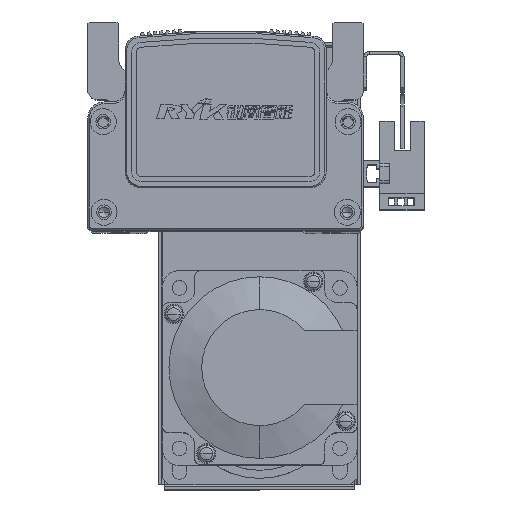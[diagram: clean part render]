
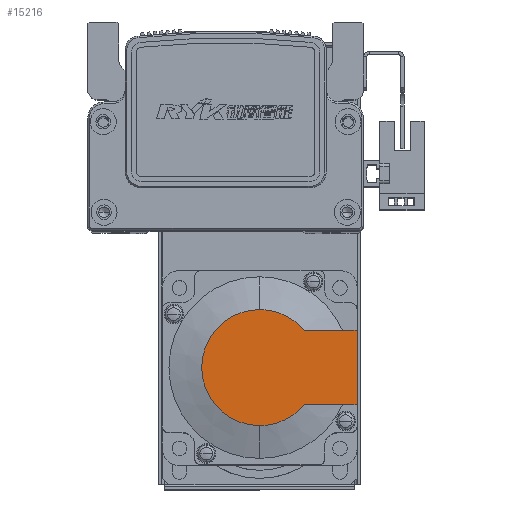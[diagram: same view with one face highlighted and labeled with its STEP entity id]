
A CAD part, top view. The second image highlights one B-rep face of the part: STEP entity #15216.
In plain terms, the highlighted planar face has unit normal (0, 0, 1) as drawn and (-1, 0, 0) by its records, which use the part's own axes.
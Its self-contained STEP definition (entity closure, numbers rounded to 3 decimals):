
#3565 = CARTESIAN_POINT ( 'NONE',  ( -99., 0., -17.881 ) ) ;
#3779 = CARTESIAN_POINT ( 'NONE',  ( -99., 0., 17.881 ) ) ;
#3861 = CARTESIAN_POINT ( 'NONE',  ( -99., 13.735, 11.45 ) ) ;
#4021 = CARTESIAN_POINT ( 'NONE',  ( -99., 13.735, -11.45 ) ) ;
#4871 = CIRCLE ( 'NONE', #12223, 17.881 ) ;
#4982 = CIRCLE ( 'NONE', #12182, 17.881 ) ;
#5941 = EDGE_LOOP ( 'NONE', ( #24238, #24209, #24239, #24218, #24288, #24165 ) ) ;
#12182 = AXIS2_PLACEMENT_3D ( 'NONE', #40199, #40196, #40104 ) ;
#12223 = AXIS2_PLACEMENT_3D ( 'NONE', #60259, #60276, #60356 ) ;
#15216 = ADVANCED_FACE ( 'NONE', ( #22632 ), #16571, .T. ) ;
#16560 = DIRECTION ( 'NONE',  ( 0., 0., 1. ) ) ;
#16571 = PLANE ( 'NONE',  #18927 ) ;
#16574 = CARTESIAN_POINT ( 'NONE',  ( -99., -8.941, 0. ) ) ;
#16580 = DIRECTION ( 'NONE',  ( -1., 0., 0. ) ) ;
#18927 = AXIS2_PLACEMENT_3D ( 'NONE', #16574, #16580, #16560 ) ;
#21518 = DIRECTION ( 'NONE',  ( 0., -1., 0. ) ) ;
#21529 = DIRECTION ( 'NONE',  ( -1., 0., 0. ) ) ;
#21531 = CARTESIAN_POINT ( 'NONE',  ( -99., 0., 0. ) ) ;
#21545 = DIRECTION ( 'NONE',  ( 0., 0., -1. ) ) ;
#21554 = CARTESIAN_POINT ( 'NONE',  ( -99., -8.941, -11.45 ) ) ;
#21685 = DIRECTION ( 'NONE',  ( 0., -1., 0. ) ) ;
#21711 = CARTESIAN_POINT ( 'NONE',  ( -99., 0., 11.45 ) ) ;
#22632 = FACE_OUTER_BOUND ( 'NONE', #5941, .T. ) ;
#24165 = ORIENTED_EDGE ( 'NONE', *, *, #50739, .F. ) ;
#24209 = ORIENTED_EDGE ( 'NONE', *, *, #50634, .T. ) ;
#24218 = ORIENTED_EDGE ( 'NONE', *, *, #49006, .T. ) ;
#24238 = ORIENTED_EDGE ( 'NONE', *, *, #50646, .T. ) ;
#24239 = ORIENTED_EDGE ( 'NONE', *, *, #49130, .T. ) ;
#24288 = ORIENTED_EDGE ( 'NONE', *, *, #50710, .F. ) ;
#28528 = CARTESIAN_POINT ( 'NONE',  ( -99., 30., -11.45 ) ) ;
#28555 = CARTESIAN_POINT ( 'NONE',  ( -99., 30., 11.45 ) ) ;
#30394 = VERTEX_POINT ( 'NONE', #3565 ) ;
#30470 = VERTEX_POINT ( 'NONE', #3779 ) ;
#30473 = VERTEX_POINT ( 'NONE', #3861 ) ;
#30593 = VERTEX_POINT ( 'NONE', #4021 ) ;
#32017 = AXIS2_PLACEMENT_3D ( 'NONE', #21531, #21529, #21545 ) ;
#40104 = DIRECTION ( 'NONE',  ( 0., 0., -1. ) ) ;
#40196 = DIRECTION ( 'NONE',  ( -1., 0., 0. ) ) ;
#40199 = CARTESIAN_POINT ( 'NONE',  ( -99., 0., 0. ) ) ;
#49006 = EDGE_CURVE ( 'NONE', #30470, #30473, #4871, .T. ) ;
#49130 = EDGE_CURVE ( 'NONE', #30394, #30470, #4982, .T. ) ;
#50634 = EDGE_CURVE ( 'NONE', #30593, #30394, #52998, .T. ) ;
#50646 = EDGE_CURVE ( 'NONE', #62456, #30593, #52990, .T. ) ;
#50710 = EDGE_CURVE ( 'NONE', #62493, #30473, #53101, .T. ) ;
#50739 = EDGE_CURVE ( 'NONE', #62456, #62493, #53187, .T. ) ;
#52990 = LINE ( 'NONE', #21554, #52997 ) ;
#52997 = VECTOR ( 'NONE', #21518, 1000. ) ;
#52998 = CIRCLE ( 'NONE', #32017, 17.881 ) ;
#53101 = LINE ( 'NONE', #21711, #53108 ) ;
#53108 = VECTOR ( 'NONE', #21685, 1000. ) ;
#53187 = LINE ( 'NONE', #56933, #53200 ) ;
#53200 = VECTOR ( 'NONE', #56922, 1000. ) ;
#56922 = DIRECTION ( 'NONE',  ( 0., 0., 1. ) ) ;
#56933 = CARTESIAN_POINT ( 'NONE',  ( -99., 30., 25. ) ) ;
#60259 = CARTESIAN_POINT ( 'NONE',  ( -99., 0., 0. ) ) ;
#60276 = DIRECTION ( 'NONE',  ( -1., 0., 0. ) ) ;
#60356 = DIRECTION ( 'NONE',  ( 0., 0., -1. ) ) ;
#62456 = VERTEX_POINT ( 'NONE', #28528 ) ;
#62493 = VERTEX_POINT ( 'NONE', #28555 ) ;
